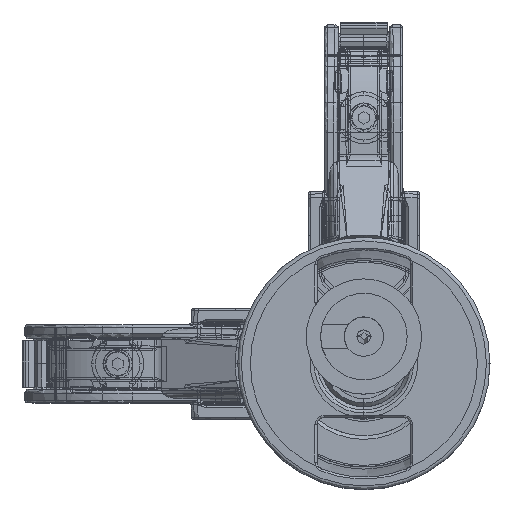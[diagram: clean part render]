
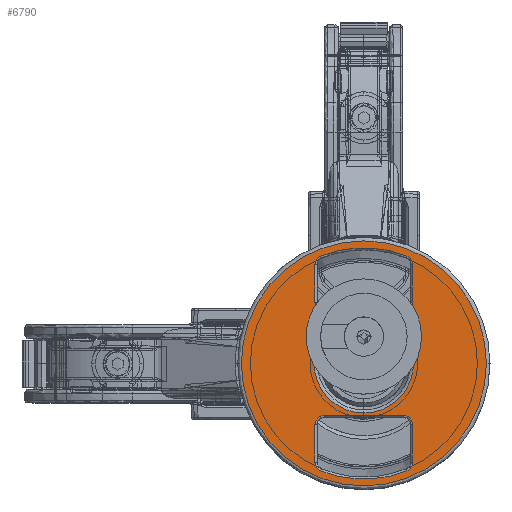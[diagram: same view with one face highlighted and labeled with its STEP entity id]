
A CAD part, top view. The second image highlights one B-rep face of the part: STEP entity #6790.
In plain terms, the highlighted planar face has unit normal (0, 0, 1).
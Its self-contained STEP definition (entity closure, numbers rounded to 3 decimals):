
#4917=PLANE('',#36739);
#5129=FACE_BOUND('',#11741,.T.);
#5130=FACE_BOUND('',#11742,.T.);
#5131=FACE_BOUND('',#11743,.T.);
#5132=FACE_BOUND('',#11744,.T.);
#6790=ADVANCED_FACE('',(#5129,#5130,#5131,#5132),#4917,.T.);
#11741=EDGE_LOOP('',(#22790,#22791,#22792,#22793,#22794,#22795,#22796,#22797));
#11742=EDGE_LOOP('',(#22798,#22799,#22800));
#11743=EDGE_LOOP('',(#22801,#22802,#22803));
#11744=EDGE_LOOP('',(#22804,#22805,#22806,#22807,#22808,#22809,#22810,#22811));
#13337=LINE('',#110249,#14747);
#13338=LINE('',#110258,#14748);
#13339=LINE('',#110262,#14749);
#13340=LINE('',#110277,#14750);
#13341=LINE('',#110283,#14751);
#13342=LINE('',#110287,#14752);
#14747=VECTOR('',#41446,1.);
#14748=VECTOR('',#41453,1.);
#14749=VECTOR('',#41456,1.);
#14750=VECTOR('',#41471,1.);
#14751=VECTOR('',#41476,1.);
#14752=VECTOR('',#41479,1.);
#22790=ORIENTED_EDGE('',*,*,#32808,.F.);
#22791=ORIENTED_EDGE('',*,*,#32809,.F.);
#22792=ORIENTED_EDGE('',*,*,#32810,.F.);
#22793=ORIENTED_EDGE('',*,*,#32811,.F.);
#22794=ORIENTED_EDGE('',*,*,#32812,.T.);
#22795=ORIENTED_EDGE('',*,*,#32813,.F.);
#22796=ORIENTED_EDGE('',*,*,#32814,.F.);
#22797=ORIENTED_EDGE('',*,*,#32815,.F.);
#22798=ORIENTED_EDGE('',*,*,#32816,.F.);
#22799=ORIENTED_EDGE('',*,*,#32817,.F.);
#22800=ORIENTED_EDGE('',*,*,#32818,.F.);
#22801=ORIENTED_EDGE('',*,*,#32819,.F.);
#22802=ORIENTED_EDGE('',*,*,#32820,.F.);
#22803=ORIENTED_EDGE('',*,*,#32821,.F.);
#22804=ORIENTED_EDGE('',*,*,#32822,.F.);
#22805=ORIENTED_EDGE('',*,*,#32823,.F.);
#22806=ORIENTED_EDGE('',*,*,#32795,.F.);
#22807=ORIENTED_EDGE('',*,*,#32824,.F.);
#22808=ORIENTED_EDGE('',*,*,#32825,.F.);
#22809=ORIENTED_EDGE('',*,*,#32826,.T.);
#22810=ORIENTED_EDGE('',*,*,#32827,.F.);
#22811=ORIENTED_EDGE('',*,*,#32828,.T.);
#28100=VERTEX_POINT('',#110223);
#28101=VERTEX_POINT('',#110224);
#28111=VERTEX_POINT('',#110250);
#28112=VERTEX_POINT('',#110251);
#28113=VERTEX_POINT('',#110253);
#28114=VERTEX_POINT('',#110255);
#28115=VERTEX_POINT('',#110257);
#28116=VERTEX_POINT('',#110259);
#28117=VERTEX_POINT('',#110261);
#28118=VERTEX_POINT('',#110263);
#28119=VERTEX_POINT('',#110266);
#28120=VERTEX_POINT('',#110267);
#28121=VERTEX_POINT('',#110269);
#28122=VERTEX_POINT('',#110272);
#28123=VERTEX_POINT('',#110273);
#28124=VERTEX_POINT('',#110275);
#28125=VERTEX_POINT('',#110278);
#28126=VERTEX_POINT('',#110279);
#28127=VERTEX_POINT('',#110282);
#28128=VERTEX_POINT('',#110284);
#28129=VERTEX_POINT('',#110286);
#28130=VERTEX_POINT('',#110288);
#32795=EDGE_CURVE('',#28100,#28101,#34903,.T.);
#32808=EDGE_CURVE('',#28111,#28112,#13337,.T.);
#32809=EDGE_CURVE('',#28113,#28111,#34914,.T.);
#32810=EDGE_CURVE('',#28114,#28113,#34915,.T.);
#32811=EDGE_CURVE('',#28115,#28114,#34916,.T.);
#32812=EDGE_CURVE('',#28115,#28116,#13338,.T.);
#32813=EDGE_CURVE('',#28117,#28116,#34917,.T.);
#32814=EDGE_CURVE('',#28118,#28117,#13339,.T.);
#32815=EDGE_CURVE('',#28112,#28118,#34918,.T.);
#32816=EDGE_CURVE('',#28119,#28120,#34919,.T.);
#32817=EDGE_CURVE('',#28121,#28119,#34920,.T.);
#32818=EDGE_CURVE('',#28120,#28121,#34921,.T.);
#32819=EDGE_CURVE('',#28122,#28123,#34922,.T.);
#32820=EDGE_CURVE('',#28124,#28122,#34923,.T.);
#32821=EDGE_CURVE('',#28123,#28124,#34924,.T.);
#32822=EDGE_CURVE('',#28125,#28126,#13340,.T.);
#32823=EDGE_CURVE('',#28101,#28125,#34925,.T.);
#32824=EDGE_CURVE('',#28127,#28100,#34926,.T.);
#32825=EDGE_CURVE('',#28128,#28127,#13341,.T.);
#32826=EDGE_CURVE('',#28128,#28129,#34927,.T.);
#32827=EDGE_CURVE('',#28130,#28129,#13342,.T.);
#32828=EDGE_CURVE('',#28130,#28126,#34928,.T.);
#34903=CIRCLE('',#36710,16.05);
#34914=CIRCLE('',#36724,1.3);
#34915=CIRCLE('',#36725,16.05);
#34916=CIRCLE('',#36726,1.3);
#34917=CIRCLE('',#36727,1.3);
#34918=CIRCLE('',#36728,1.3);
#34919=CIRCLE('',#36729,6.887);
#34920=CIRCLE('',#36730,6.887);
#34921=CIRCLE('',#36731,6.887);
#34922=CIRCLE('',#36732,17.);
#34923=CIRCLE('',#36733,17.);
#34924=CIRCLE('',#36734,17.);
#34925=CIRCLE('',#36735,1.3);
#34926=CIRCLE('',#36736,1.3);
#34927=CIRCLE('',#36737,1.3);
#34928=CIRCLE('',#36738,1.3);
#36710=AXIS2_PLACEMENT_3D('',#110222,#41416,#41417);
#36724=AXIS2_PLACEMENT_3D('',#110252,#41447,#41448);
#36725=AXIS2_PLACEMENT_3D('',#110254,#41449,#41450);
#36726=AXIS2_PLACEMENT_3D('',#110256,#41451,#41452);
#36727=AXIS2_PLACEMENT_3D('',#110260,#41454,#41455);
#36728=AXIS2_PLACEMENT_3D('',#110264,#41457,#41458);
#36729=AXIS2_PLACEMENT_3D('',#110265,#41459,#41460);
#36730=AXIS2_PLACEMENT_3D('',#110268,#41461,#41462);
#36731=AXIS2_PLACEMENT_3D('',#110270,#41463,#41464);
#36732=AXIS2_PLACEMENT_3D('',#110271,#41465,#41466);
#36733=AXIS2_PLACEMENT_3D('',#110274,#41467,#41468);
#36734=AXIS2_PLACEMENT_3D('',#110276,#41469,#41470);
#36735=AXIS2_PLACEMENT_3D('',#110280,#41472,#41473);
#36736=AXIS2_PLACEMENT_3D('',#110281,#41474,#41475);
#36737=AXIS2_PLACEMENT_3D('',#110285,#41477,#41478);
#36738=AXIS2_PLACEMENT_3D('',#110289,#41480,#41481);
#36739=AXIS2_PLACEMENT_3D('',#110290,#41482,#41483);
#41416=DIRECTION('',(0.,0.,1.));
#41417=DIRECTION('',(1.,0.,0.));
#41446=DIRECTION('',(0.,1.,0.));
#41447=DIRECTION('',(0.,0.,1.));
#41448=DIRECTION('',(1.,0.,0.));
#41449=DIRECTION('',(0.,0.,1.));
#41450=DIRECTION('',(1.,0.,0.));
#41451=DIRECTION('',(0.,0.,1.));
#41452=DIRECTION('',(1.,0.,0.));
#41453=DIRECTION('',(0.,1.,0.));
#41454=DIRECTION('',(0.,0.,1.));
#41455=DIRECTION('',(1.,0.,0.));
#41456=DIRECTION('',(-1.,0.,0.));
#41457=DIRECTION('',(0.,0.,1.));
#41458=DIRECTION('',(1.,0.,0.));
#41459=DIRECTION('',(0.,0.,1.));
#41460=DIRECTION('',(1.,0.,0.));
#41461=DIRECTION('',(0.,0.,1.));
#41462=DIRECTION('',(1.,0.,0.));
#41463=DIRECTION('',(0.,0.,1.));
#41464=DIRECTION('',(1.,0.,0.));
#41465=DIRECTION('',(0.,0.,-1.));
#41466=DIRECTION('',(-1.,0.,0.));
#41467=DIRECTION('',(0.,0.,-1.));
#41468=DIRECTION('',(-1.,0.,0.));
#41469=DIRECTION('',(0.,0.,-1.));
#41470=DIRECTION('',(-1.,0.,0.));
#41471=DIRECTION('',(0.,-1.,0.));
#41472=DIRECTION('',(0.,0.,1.));
#41473=DIRECTION('',(1.,0.,0.));
#41474=DIRECTION('',(0.,0.,1.));
#41475=DIRECTION('',(1.,0.,0.));
#41476=DIRECTION('',(0.,1.,0.));
#41477=DIRECTION('',(0.,0.,-1.));
#41478=DIRECTION('',(-1.,0.,0.));
#41479=DIRECTION('',(1.,0.,0.));
#41480=DIRECTION('',(0.,0.,-1.));
#41481=DIRECTION('',(-1.,0.,0.));
#41482=DIRECTION('',(0.,0.,1.));
#41483=DIRECTION('',(1.,0.,0.));
#110222=CARTESIAN_POINT('',(0.,0.,24.));
#110223=CARTESIAN_POINT('',(5.985,14.892,24.));
#110224=CARTESIAN_POINT('',(-5.985,14.892,24.));
#110249=CARTESIAN_POINT('',(6.8,8.896,24.));
#110250=CARTESIAN_POINT('',(6.8,-13.686,24.));
#110251=CARTESIAN_POINT('',(6.8,-8.5,24.));
#110252=CARTESIAN_POINT('',(5.5,-13.686,24.));
#110253=CARTESIAN_POINT('',(5.985,-14.892,24.));
#110254=CARTESIAN_POINT('',(0.,0.,24.));
#110255=CARTESIAN_POINT('',(-5.985,-14.892,24.));
#110256=CARTESIAN_POINT('',(-5.5,-13.686,24.));
#110257=CARTESIAN_POINT('',(-6.8,-13.686,24.));
#110258=CARTESIAN_POINT('',(-6.8,8.896,24.));
#110259=CARTESIAN_POINT('',(-6.8,-8.5,24.));
#110260=CARTESIAN_POINT('',(-5.5,-8.5,24.));
#110261=CARTESIAN_POINT('',(-5.5,-7.2,24.));
#110262=CARTESIAN_POINT('',(1.796,-7.2,24.));
#110263=CARTESIAN_POINT('',(5.5,-7.2,24.));
#110264=CARTESIAN_POINT('',(5.5,-8.5,24.));
#110265=CARTESIAN_POINT('',(0.,0.,24.));
#110266=CARTESIAN_POINT('',(-6.887,0.,24.));
#110267=CARTESIAN_POINT('',(0.,-6.887,24.));
#110268=CARTESIAN_POINT('',(0.,0.,24.));
#110269=CARTESIAN_POINT('',(6.887,0.,24.));
#110270=CARTESIAN_POINT('',(0.,0.,24.));
#110271=CARTESIAN_POINT('',(0.,0.,24.));
#110272=CARTESIAN_POINT('',(17.,0.,24.));
#110273=CARTESIAN_POINT('',(0.,-17.,24.));
#110274=CARTESIAN_POINT('',(0.,0.,24.));
#110275=CARTESIAN_POINT('',(-17.,0.,24.));
#110276=CARTESIAN_POINT('',(0.,0.,24.));
#110277=CARTESIAN_POINT('',(-6.8,8.896,24.));
#110278=CARTESIAN_POINT('',(-6.8,13.686,24.));
#110279=CARTESIAN_POINT('',(-6.8,8.5,24.));
#110280=CARTESIAN_POINT('',(-5.5,13.686,24.));
#110281=CARTESIAN_POINT('',(5.5,13.686,24.));
#110282=CARTESIAN_POINT('',(6.8,13.686,24.));
#110283=CARTESIAN_POINT('',(6.8,8.896,24.));
#110284=CARTESIAN_POINT('',(6.8,8.5,24.));
#110285=CARTESIAN_POINT('',(5.5,8.5,24.));
#110286=CARTESIAN_POINT('',(5.5,7.2,24.));
#110287=CARTESIAN_POINT('',(1.796,7.2,24.));
#110288=CARTESIAN_POINT('',(-5.5,7.2,24.));
#110289=CARTESIAN_POINT('',(-5.5,8.5,24.));
#110290=CARTESIAN_POINT('',(0.,16.057,24.));
